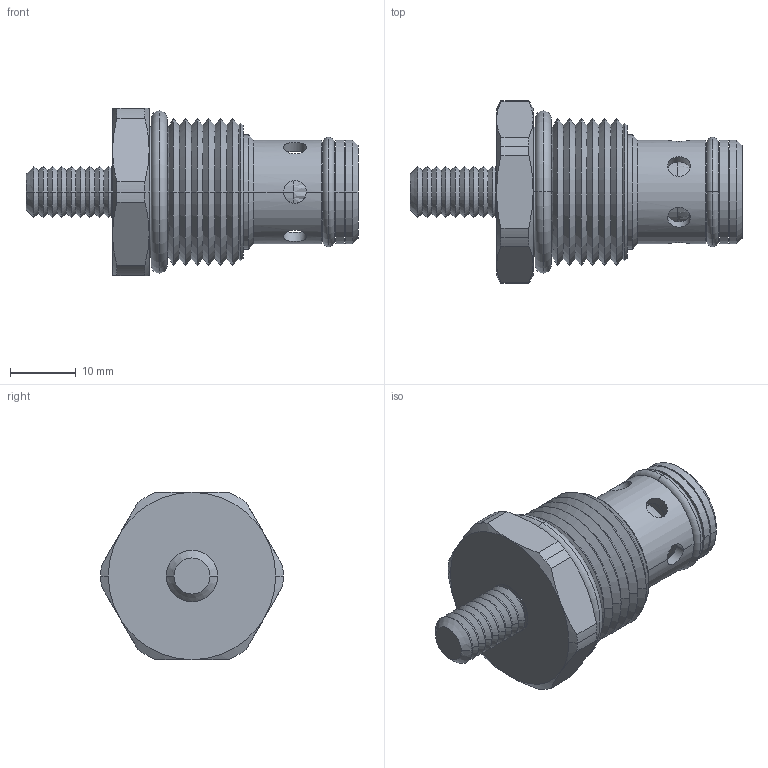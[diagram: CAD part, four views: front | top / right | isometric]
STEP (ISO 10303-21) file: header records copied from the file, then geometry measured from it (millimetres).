
FILE_DESCRIPTION((''),'2;1');
FILE_NAME('U:\Solid model CD\Solid model full\Mechanical\STEP\DEMCS00-3D Full.stp','2008-07-28T16:10:33',('Dan'),(''),'Autodesk Inventor 9','Autodesk Inventor 9','');
FILE_SCHEMA(('AUTOMOTIVE_DESIGN { 1 0 10303 214 1 1 1 1 }'));
Length unit declared in the file: inch
Products named in the file (5): DEMCS00-3D Full; DEMCS00-3D Full1; DEMCS00-3D Full2; DEMCS00-3D Full3; DEMCS00-3D Full4
Assembly tree (4 placements, depth 2):
  DEMCS00-3D Full
    DEMCS00-3D Full1
    DEMCS00-3D Full2
    DEMCS00-3D Full3
    DEMCS00-3D Full4
Bounding box: 50.39 x 27.69 x 25.4 mm (x, y, z)
Volume: 11579.3 mm3; surface area: 5816.2 mm2
Topology: 4 solids, 4 shells, 176 faces, 421 edges, 248 vertices
Faces by surface type: cone 84, cylinder 50, plane 22, torus 8, bspline 8, sphere 4
Entity records: 5868 total; most frequent: CARTESIAN_POINT 1666, DIRECTION 926, ORIENTED_EDGE 830, EDGE_CURVE 415, AXIS2_PLACEMENT_3D 394, VERTEX_POINT 246, CIRCLE 217, EDGE_LOOP 197
